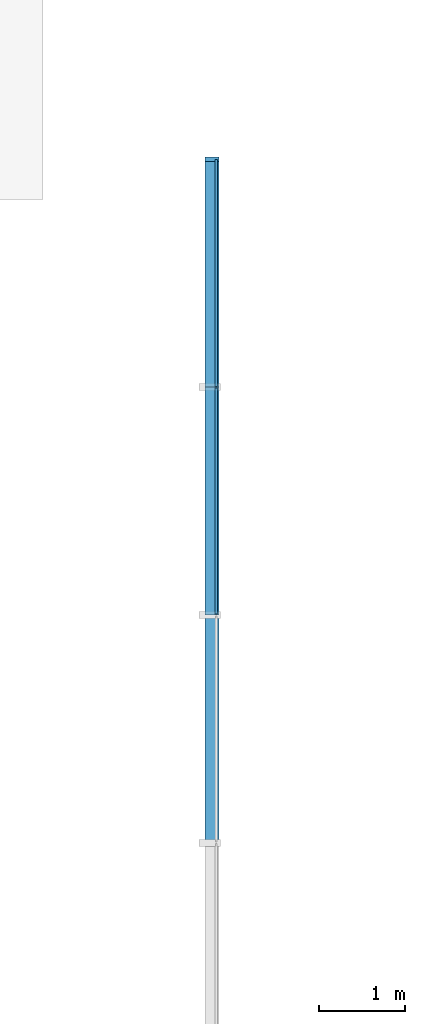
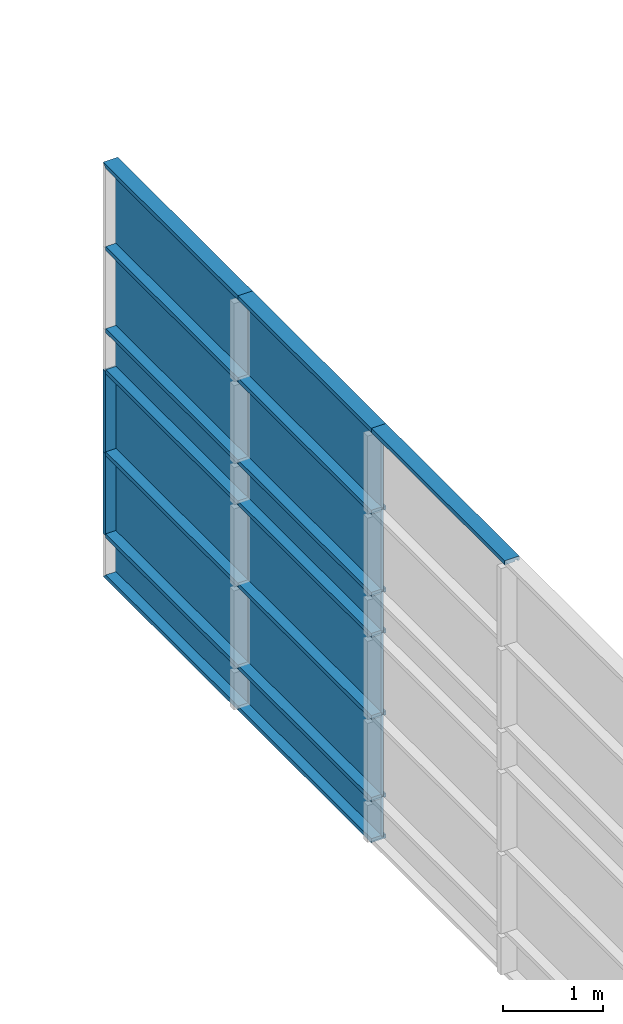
# One storey, part 3 of 19: 29 building element parts, 1 element without a shape of its own.
"""IFC4 building model written with IfcOpenShell, lengths in millimetres."""

from ifc_helpers import new_model, entity, si_unit, converted_unit, derived_unit, direction, frame, origin_with_axes, place, context, subcontext, project, spatial, triangles, material, element, aggregate, save


model = new_model("IFC4")

# Units and contexts
model_context = context("Model", 3, precision=1e-05, world=origin_with_axes(), true_north=direction((0.0, 1.0)))
body_context = subcontext(model_context, "Body", "Model", "MODEL_VIEW")
ifc_project = project(units=[si_unit("LENGTHUNIT", "METRE", prefix="MILLI"), si_unit("AREAUNIT", "SQUARE_METRE"), si_unit("VOLUMEUNIT", "CUBIC_METRE"), converted_unit("PLANEANGLEUNIT", "DEGREE", entity("IfcLengthMeasure", 0.017453), si_unit("PLANEANGLEUNIT", "RADIAN"), dimensions=[0, 0, 0, 0, 0, 0, 0]), si_unit("SOLIDANGLEUNIT", "STERADIAN"), si_unit("MASSUNIT", "GRAM"), si_unit("TIMEUNIT", "SECOND"), si_unit("THERMODYNAMICTEMPERATUREUNIT", "DEGREE_CELSIUS"), si_unit("LUMINOUSINTENSITYUNIT", "LUMEN"), si_unit("POWERUNIT", "WATT"), derived_unit("THERMALTRANSMITTANCEUNIT", [(si_unit("POWERUNIT", "WATT"), 1), (si_unit("THERMODYNAMICTEMPERATUREUNIT", "KELVIN"), -1), (si_unit("AREAUNIT", "SQUARE_METRE"), -1)])], contexts=[model_context])

# Site, building, storey
site_placement = place(None, origin_with_axes())
site = spatial("IfcSite", under=ifc_project, at=site_placement, Name="Default Site", CompositionType="ELEMENT")
building_placement = place(site_placement, origin_with_axes())
building = spatial("IfcBuilding", under=site, at=building_placement, Name="Default Building", CompositionType="ELEMENT")
storey_placement = place(building_placement, frame((0.0, 0.0, 3000.0), z_axis=(0.0, 0.0, 1.0), x_axis=(1.0, 0.0, 0.0)))
storey = spatial("IfcBuildingStorey", under=building, at=storey_placement, Name="EG - Story", CompositionType="ELEMENT", Elevation=3000.0)

# Curtain wall, building element parts
curtain_wall_placement = place(storey_placement, origin_with_axes())
curtain_wall = element("IfcCurtainWall", 1, at=curtain_wall_placement, inside=storey, Name="Fassade-013", PredefinedType="NOTDEFINED")
ifc_material_1 = material(Name="Normalglas")
building_element_part_1_placement = place(curtain_wall_placement, frame((51421.391327, -49908.012838, 0.0), z_axis=(0.0, 0.0, 1.0), x_axis=(1.0, 0.0, 0.0)))
building_element_part_1 = element("IfcBuildingElementPart", 2, at=building_element_part_1_placement, material=ifc_material_1, Name="Normalglas", PredefinedType="NOTDEFINED", context=body_context, shape_type="Tessellation", body=[
    triangles([(-14.999, 6646.25, 495.0), (-14.999, 4003.75, 495.0), (15.0, 4003.75, 495.0), (15.0, 6646.25, 495.0), (-14.999, 6646.25, 5.0), (-14.999, 4003.75, 5.0), (15.0, 4003.75, 5.0), (15.0, 6646.25, 5.0)], [[1, 2, 3], [1, 3, 4], [1, 5, 6], [1, 6, 2], [2, 6, 7], [2, 7, 3], [4, 3, 7], [4, 7, 8], [5, 1, 4], [5, 4, 8], [6, 5, 8], [6, 8, 7]], closed=False),
])
building_element_part_2_placement = place(curtain_wall_placement, frame((51421.391327, -49908.012838, 0.0), z_axis=(0.0, 0.0, 1.0), x_axis=(1.0, 0.0, 0.0)))
building_element_part_2 = element("IfcBuildingElementPart", 3, at=building_element_part_2_placement, material=ifc_material_1, Name="Normalglas", PredefinedType="NOTDEFINED", context=body_context, shape_type="Tessellation", body=[
    triangles([(-14.999, 9313.75, 495.0), (-14.999, 6666.25, 495.0), (15.0, 6666.25, 495.0), (15.0, 9313.75, 495.0), (-14.999, 9313.75, 5.0), (-14.999, 6666.25, 5.0), (15.0, 6666.25, 5.0), (15.0, 9313.75, 5.0)], [[1, 2, 3], [1, 3, 4], [1, 5, 6], [1, 6, 2], [2, 6, 7], [2, 7, 3], [4, 3, 7], [4, 7, 8], [5, 1, 4], [5, 4, 8], [6, 5, 8], [6, 8, 7]], closed=False),
])
building_element_part_3_placement = place(curtain_wall_placement, frame((51421.391327, -49908.012838, 0.0), z_axis=(0.0, 0.0, 1.0), x_axis=(1.0, 0.0, 0.0)))
building_element_part_3 = element("IfcBuildingElementPart", 4, at=building_element_part_3_placement, material=ifc_material_1, Name="Normalglas", PredefinedType="NOTDEFINED", context=body_context, shape_type="Tessellation", body=[
    triangles([(-14.999, 6646.25, 1495.0), (-14.999, 4003.75, 1495.0), (15.0, 4003.75, 1495.0), (15.0, 6646.25, 1495.0), (-14.999, 6646.25, 505.0), (-14.999, 4003.75, 505.0), (15.0, 4003.75, 505.0), (15.0, 6646.25, 505.0)], [[1, 2, 3], [1, 3, 4], [1, 5, 6], [1, 6, 2], [2, 6, 7], [2, 7, 3], [4, 3, 7], [4, 7, 8], [5, 1, 4], [5, 4, 8], [6, 5, 8], [6, 8, 7]], closed=False),
])
building_element_part_4_placement = place(curtain_wall_placement, frame((51421.391327, -49908.012838, 0.0), z_axis=(0.0, 0.0, 1.0), x_axis=(1.0, 0.0, 0.0)))
building_element_part_4 = element("IfcBuildingElementPart", 5, at=building_element_part_4_placement, material=ifc_material_1, Name="Normalglas", PredefinedType="NOTDEFINED", context=body_context, shape_type="Tessellation", body=[
    triangles([(-14.999, 9313.75, 1495.0), (-14.999, 6666.25, 1495.0), (15.0, 6666.25, 1495.0), (15.0, 9313.75, 1495.0), (-14.999, 9313.75, 505.0), (-14.999, 6666.25, 505.0), (15.0, 6666.25, 505.0), (15.0, 9313.75, 505.0)], [[1, 2, 3], [1, 3, 4], [1, 5, 6], [1, 6, 2], [2, 6, 7], [2, 7, 3], [4, 3, 7], [4, 7, 8], [5, 1, 4], [5, 4, 8], [6, 5, 8], [6, 8, 7]], closed=False),
])
building_element_part_5_placement = place(curtain_wall_placement, frame((51421.391327, -49908.012838, 0.0), z_axis=(0.0, 0.0, 1.0), x_axis=(1.0, 0.0, 0.0)))
building_element_part_5 = element("IfcBuildingElementPart", 6, at=building_element_part_5_placement, material=ifc_material_1, Name="Normalglas", PredefinedType="NOTDEFINED", context=body_context, shape_type="Tessellation", body=[
    triangles([(-14.999, 6646.25, 2495.0), (-14.999, 4003.75, 2495.0), (15.0, 4003.75, 2495.0), (15.0, 6646.25, 2495.0), (-14.999, 6646.25, 1505.0), (-14.999, 4003.75, 1505.0), (15.0, 4003.75, 1505.0), (15.0, 6646.25, 1505.0)], [[1, 2, 3], [1, 3, 4], [1, 5, 6], [1, 6, 2], [2, 6, 7], [2, 7, 3], [4, 3, 7], [4, 7, 8], [5, 1, 4], [5, 4, 8], [6, 5, 8], [6, 8, 7]], closed=False),
])
building_element_part_6_placement = place(curtain_wall_placement, frame((51421.391327, -49908.012838, 0.0), z_axis=(0.0, 0.0, 1.0), x_axis=(1.0, 0.0, 0.0)))
building_element_part_6 = element("IfcBuildingElementPart", 7, at=building_element_part_6_placement, material=ifc_material_1, Name="Normalglas", PredefinedType="NOTDEFINED", context=body_context, shape_type="Tessellation", body=[
    triangles([(-14.999, 9313.75, 2495.0), (-14.999, 6666.25, 2495.0), (15.0, 6666.25, 2495.0), (15.0, 9313.75, 2495.0), (-14.999, 9313.75, 1505.0), (-14.999, 6666.25, 1505.0), (15.0, 6666.25, 1505.0), (15.0, 9313.75, 1505.0)], [[1, 2, 3], [1, 3, 4], [1, 5, 6], [1, 6, 2], [2, 6, 7], [2, 7, 3], [4, 3, 7], [4, 7, 8], [5, 1, 4], [5, 4, 8], [6, 5, 8], [6, 8, 7]], closed=False),
])
building_element_part_7_placement = place(curtain_wall_placement, frame((51421.391327, -49908.012838, 0.0), z_axis=(0.0, 0.0, 1.0), x_axis=(1.0, 0.0, 0.0)))
building_element_part_7 = element("IfcBuildingElementPart", 8, at=building_element_part_7_placement, material=ifc_material_1, Name="Normalglas", PredefinedType="NOTDEFINED", context=body_context, shape_type="Tessellation", body=[
    triangles([(-14.999, 6646.25, 2995.0), (-14.999, 4003.75, 2995.0), (15.0, 4003.75, 2995.0), (15.0, 6646.25, 2995.0), (-14.999, 6646.25, 2505.0), (-14.999, 4003.75, 2505.0), (15.0, 4003.75, 2505.0), (15.0, 6646.25, 2505.0)], [[1, 2, 3], [1, 3, 4], [1, 5, 6], [1, 6, 2], [2, 6, 7], [2, 7, 3], [4, 3, 7], [4, 7, 8], [5, 1, 4], [5, 4, 8], [6, 5, 8], [6, 8, 7]], closed=False),
])
building_element_part_8_placement = place(curtain_wall_placement, frame((51421.391327, -49908.012838, 0.0), z_axis=(0.0, 0.0, 1.0), x_axis=(1.0, 0.0, 0.0)))
building_element_part_8 = element("IfcBuildingElementPart", 9, at=building_element_part_8_placement, material=ifc_material_1, Name="Normalglas", PredefinedType="NOTDEFINED", context=body_context, shape_type="Tessellation", body=[
    triangles([(-14.999, 9313.75, 2995.0), (-14.999, 6666.25, 2995.0), (15.0, 6666.25, 2995.0), (15.0, 9313.75, 2995.0), (-14.999, 9313.75, 2505.0), (-14.999, 6666.25, 2505.0), (15.0, 6666.25, 2505.0), (15.0, 9313.75, 2505.0)], [[1, 2, 3], [1, 3, 4], [1, 5, 6], [1, 6, 2], [2, 6, 7], [2, 7, 3], [4, 3, 7], [4, 7, 8], [5, 1, 4], [5, 4, 8], [6, 5, 8], [6, 8, 7]], closed=False),
])
building_element_part_9_placement = place(curtain_wall_placement, frame((51421.391327, -49908.012838, 0.0), z_axis=(0.0, 0.0, 1.0), x_axis=(1.0, 0.0, 0.0)))
building_element_part_9 = element("IfcBuildingElementPart", 10, at=building_element_part_9_placement, material=ifc_material_1, Name="Normalglas", PredefinedType="NOTDEFINED", context=body_context, shape_type="Tessellation", body=[
    triangles([(-14.999, 6646.25, 3995.0), (-14.999, 4003.75, 3995.0), (15.0, 4003.75, 3995.0), (15.0, 6646.25, 3995.0), (-14.999, 6646.25, 3005.0), (-14.999, 4003.75, 3005.0), (15.0, 4003.75, 3005.0), (15.0, 6646.25, 3005.0)], [[1, 2, 3], [1, 3, 4], [1, 5, 6], [1, 6, 2], [2, 6, 7], [2, 7, 3], [4, 3, 7], [4, 7, 8], [5, 1, 4], [5, 4, 8], [6, 5, 8], [6, 8, 7]], closed=False),
])
building_element_part_10_placement = place(curtain_wall_placement, frame((51421.391327, -49908.012838, 0.0), z_axis=(0.0, 0.0, 1.0), x_axis=(1.0, 0.0, 0.0)))
building_element_part_10 = element("IfcBuildingElementPart", 11, at=building_element_part_10_placement, material=ifc_material_1, Name="Normalglas", PredefinedType="NOTDEFINED", context=body_context, shape_type="Tessellation", body=[
    triangles([(-14.999, 9313.75, 3995.0), (-14.999, 6666.25, 3995.0), (15.0, 6666.25, 3995.0), (15.0, 9313.75, 3995.0), (-14.999, 9313.75, 3005.0), (-14.999, 6666.25, 3005.0), (15.0, 6666.25, 3005.0), (15.0, 9313.75, 3005.0)], [[1, 2, 3], [1, 3, 4], [1, 5, 6], [1, 6, 2], [2, 6, 7], [2, 7, 3], [4, 3, 7], [4, 7, 8], [5, 1, 4], [5, 4, 8], [6, 5, 8], [6, 8, 7]], closed=False),
])
building_element_part_11_placement = place(curtain_wall_placement, frame((51421.391327, -49908.012838, 0.0), z_axis=(0.0, 0.0, 1.0), x_axis=(1.0, 0.0, 0.0)))
building_element_part_11 = element("IfcBuildingElementPart", 12, at=building_element_part_11_placement, material=ifc_material_1, Name="Normalglas", PredefinedType="NOTDEFINED", context=body_context, shape_type="Tessellation", body=[
    triangles([(-14.999, 6646.25, 4995.0), (-14.999, 4003.75, 4995.0), (15.0, 4003.75, 4995.0), (15.0, 6646.25, 4995.0), (-14.999, 6646.25, 4005.0), (-14.999, 4003.75, 4005.0), (15.0, 4003.75, 4005.0), (15.0, 6646.25, 4005.0)], [[1, 2, 3], [1, 3, 4], [1, 5, 6], [1, 6, 2], [2, 6, 7], [2, 7, 3], [4, 3, 7], [4, 7, 8], [5, 1, 4], [5, 4, 8], [6, 5, 8], [6, 8, 7]], closed=False),
])
building_element_part_12_placement = place(curtain_wall_placement, frame((51421.391327, -49908.012838, 0.0), z_axis=(0.0, 0.0, 1.0), x_axis=(1.0, 0.0, 0.0)))
building_element_part_12 = element("IfcBuildingElementPart", 13, at=building_element_part_12_placement, material=ifc_material_1, Name="Normalglas", PredefinedType="NOTDEFINED", context=body_context, shape_type="Tessellation", body=[
    triangles([(-14.999, 9313.75, 4995.0), (-14.999, 6666.25, 4995.0), (15.0, 6666.25, 4995.0), (15.0, 9313.75, 4995.0), (-14.999, 9313.75, 4005.0), (-14.999, 6666.25, 4005.0), (15.0, 6666.25, 4005.0), (15.0, 9313.75, 4005.0)], [[1, 2, 3], [1, 3, 4], [1, 5, 6], [1, 6, 2], [2, 6, 7], [2, 7, 3], [4, 3, 7], [4, 7, 8], [5, 1, 4], [5, 4, 8], [6, 5, 8], [6, 8, 7]], closed=False),
])
ifc_material_2 = material(Name="Blech")
building_element_part_13_placement = place(curtain_wall_placement, frame((51421.391327, -49908.012838, 0.0), z_axis=(0.0, 0.0, 1.0), x_axis=(1.0, 0.0, 0.0)))
building_element_part_13 = element("IfcBuildingElementPart", 14, at=building_element_part_13_placement, material=ifc_material_2, Name="Blech", PredefinedType="NOTDEFINED", context=body_context, shape_type="Tessellation", body=[
    triangles([(15.0, 6656.25, 5.0), (-14.999, 6656.25, 5.0), (-132.999, 6656.25, -24.999), (35.0, 6656.25, -24.999), (35.0, 6656.25, 25.0), (15.0, 6656.25, 25.0), (-132.999, 6656.25, 25.0), (-14.999, 6656.25, 25.0), (-14.999, 3993.75, 5.0), (15.0, 3993.75, 5.0), (15.0, 3993.75, 25.0), (35.0, 3993.75, 25.0), (35.0, 3993.75, -24.999), (-132.999, 3993.75, -24.999), (-132.999, 3993.75, 25.0), (-14.999, 3993.75, 25.0)], [[1, 2, 3], [1, 3, 4], [1, 4, 5], [1, 5, 6], [7, 3, 2], [7, 2, 8], [1, 2, 9], [1, 9, 10], [11, 6, 1], [11, 1, 10], [6, 11, 12], [6, 12, 5], [13, 4, 5], [13, 5, 12], [14, 3, 4], [14, 4, 13], [15, 7, 3], [15, 3, 14], [16, 8, 7], [16, 7, 15], [2, 8, 16], [2, 16, 9], [16, 15, 9], [9, 15, 14], [9, 14, 10], [10, 14, 13], [10, 13, 12], [10, 12, 11]], closed=False),
])
building_element_part_14_placement = place(curtain_wall_placement, frame((51421.391327, -49908.012838, 0.0), z_axis=(0.0, 0.0, 1.0), x_axis=(1.0, 0.0, 0.0)))
building_element_part_14 = element("IfcBuildingElementPart", 15, at=building_element_part_14_placement, material=ifc_material_2, Name="Blech", PredefinedType="NOTDEFINED", context=body_context, shape_type="Tessellation", body=[
    triangles([(15.0, 9313.75, 5.0), (-14.999, 9313.75, 5.0), (-132.999, 9343.75, -24.999), (35.0, 9343.75, -24.999), (35.0, 9293.75, 25.0), (15.0, 9293.75, 25.0), (-132.999, 9293.75, 25.0), (-14.999, 9293.75, 25.0), (-14.999, 6656.25, 5.0), (15.0, 6656.25, 5.0), (15.0, 6656.25, 25.0), (35.0, 6656.25, 25.0), (35.0, 6656.25, -24.999), (-132.999, 6656.25, -24.999), (-132.999, 6656.25, 25.0), (-14.999, 6656.25, 25.0)], [[1, 2, 3], [1, 3, 4], [1, 4, 5], [1, 5, 6], [7, 3, 2], [7, 2, 8], [1, 2, 9], [1, 9, 10], [11, 6, 1], [11, 1, 10], [6, 11, 12], [6, 12, 5], [13, 4, 5], [13, 5, 12], [14, 3, 4], [14, 4, 13], [15, 7, 3], [15, 3, 14], [16, 8, 7], [16, 7, 15], [2, 8, 16], [2, 16, 9], [16, 15, 9], [9, 15, 14], [9, 14, 10], [10, 14, 13], [10, 13, 12], [10, 12, 11]], closed=False),
])
building_element_part_15_placement = place(curtain_wall_placement, frame((51421.391327, -49908.012838, 0.0), z_axis=(0.0, 0.0, 1.0), x_axis=(1.0, 0.0, 0.0)))
building_element_part_15 = element("IfcBuildingElementPart", 16, at=building_element_part_15_placement, material=ifc_material_2, Name="Blech", PredefinedType="NOTDEFINED", context=body_context, shape_type="Tessellation", body=[
    triangles([(15.0, 6656.25, 525.0), (35.0, 6656.25, 525.0), (15.0, 6656.25, 505.0), (15.0, 6656.25, 495.0), (-14.999, 6656.25, 505.0), (-132.999, 6656.25, 525.0), (-14.999, 6656.25, 525.0), (35.0, 6656.25, 475.0), (15.0, 6656.25, 475.0), (-14.999, 6656.25, 495.0), (-14.999, 6656.25, 475.0), (-132.999, 6656.25, 475.0), (-14.999, 3993.75, 495.0), (-14.999, 3993.75, 475.0), (-132.999, 3993.75, 475.0), (-132.999, 3993.75, 525.0), (-14.999, 3993.75, 525.0), (-14.999, 3993.75, 505.0), (15.0, 3993.75, 505.0), (15.0, 3993.75, 525.0), (35.0, 3993.75, 525.0), (35.0, 3993.75, 475.0), (15.0, 3993.75, 475.0), (15.0, 3993.75, 495.0)], [[1, 2, 3], [3, 2, 4], [3, 4, 5], [5, 4, 6], [5, 6, 7], [8, 9, 4], [8, 4, 2], [6, 4, 10], [6, 10, 11], [6, 11, 12], [11, 10, 13], [11, 13, 14], [11, 14, 15], [11, 15, 12], [6, 12, 15], [6, 15, 16], [7, 6, 16], [7, 16, 17], [7, 17, 18], [7, 18, 5], [5, 18, 19], [5, 19, 3], [1, 3, 19], [1, 19, 20], [20, 21, 2], [20, 2, 1], [8, 2, 21], [8, 21, 22], [23, 9, 8], [23, 8, 22], [4, 9, 23], [4, 23, 24], [10, 4, 24], [10, 24, 13], [17, 16, 18], [18, 16, 13], [18, 13, 19], [19, 13, 24], [19, 24, 21], [21, 24, 23], [21, 23, 22], [15, 14, 13], [15, 13, 16], [19, 21, 20]], closed=False),
])
building_element_part_16_placement = place(curtain_wall_placement, frame((51421.391327, -49908.012838, 0.0), z_axis=(0.0, 0.0, 1.0), x_axis=(1.0, 0.0, 0.0)))
building_element_part_16 = element("IfcBuildingElementPart", 17, at=building_element_part_16_placement, material=ifc_material_2, Name="Blech", PredefinedType="NOTDEFINED", context=body_context, shape_type="Tessellation", body=[
    triangles([(15.0, 9293.75, 525.0), (35.0, 9293.75, 525.0), (15.0, 9293.75, 505.0), (15.0, 9293.75, 495.0), (-14.999, 9293.75, 505.0), (-132.999, 9293.75, 525.0), (-14.999, 9293.75, 525.0), (35.0, 9293.75, 475.0), (15.0, 9293.75, 475.0), (-14.999, 9293.75, 495.0), (-14.999, 9293.75, 475.0), (-132.999, 9293.75, 475.0), (-14.999, 6656.25, 495.0), (-14.999, 6656.25, 475.0), (-132.999, 6656.25, 475.0), (-132.999, 6656.25, 525.0), (-14.999, 6656.25, 525.0), (-14.999, 6656.25, 505.0), (15.0, 6656.25, 505.0), (15.0, 6656.25, 525.0), (35.0, 6656.25, 525.0), (35.0, 6656.25, 475.0), (15.0, 6656.25, 475.0), (15.0, 6656.25, 495.0)], [[1, 2, 3], [3, 2, 4], [3, 4, 5], [5, 4, 6], [5, 6, 7], [8, 9, 4], [8, 4, 2], [6, 4, 10], [6, 10, 11], [6, 11, 12], [11, 10, 13], [11, 13, 14], [11, 14, 15], [11, 15, 12], [6, 12, 15], [6, 15, 16], [7, 6, 16], [7, 16, 17], [7, 17, 18], [7, 18, 5], [5, 18, 19], [5, 19, 3], [1, 3, 19], [1, 19, 20], [20, 21, 2], [20, 2, 1], [8, 2, 21], [8, 21, 22], [23, 9, 8], [23, 8, 22], [4, 9, 23], [4, 23, 24], [10, 4, 24], [10, 24, 13], [17, 16, 18], [18, 16, 13], [18, 13, 19], [19, 13, 24], [19, 24, 21], [21, 24, 23], [21, 23, 22], [15, 14, 13], [15, 13, 16], [19, 21, 20]], closed=False),
])
building_element_part_17_placement = place(curtain_wall_placement, frame((51421.391327, -49908.012838, 0.0), z_axis=(0.0, 0.0, 1.0), x_axis=(1.0, 0.0, 0.0)))
building_element_part_17 = element("IfcBuildingElementPart", 18, at=building_element_part_17_placement, material=ifc_material_2, Name="Blech", PredefinedType="NOTDEFINED", context=body_context, shape_type="Tessellation", body=[
    triangles([(15.0, 9293.75, 1500.0), (15.0, 9313.75, 1500.0), (35.0, 9343.75, 1500.0), (-14.999, 9313.75, 1500.0), (-132.999, 9293.75, 1500.0), (-14.999, 9293.75, 1500.0), (-132.999, 9343.75, 1500.0), (35.0, 9293.75, 1500.0), (-14.999, 9313.75, 500.0), (15.0, 9313.75, 500.0), (15.0, 9293.75, 500.0), (35.0, 9293.75, 500.0), (35.0, 9343.75, 500.0), (-132.999, 9343.75, 500.0), (-132.999, 9293.75, 500.0), (-14.999, 9293.75, 500.0)], [[1, 2, 3], [3, 2, 4], [3, 4, 5], [5, 4, 6], [3, 5, 7], [1, 3, 8], [2, 4, 9], [2, 9, 10], [11, 1, 2], [11, 2, 10], [1, 11, 12], [1, 12, 8], [13, 3, 8], [13, 8, 12], [14, 7, 3], [14, 3, 13], [15, 5, 7], [15, 7, 14], [16, 6, 5], [16, 5, 15], [4, 6, 16], [4, 16, 9], [13, 12, 11], [13, 11, 10], [13, 10, 9], [13, 9, 15], [13, 15, 14], [16, 15, 9]], closed=False),
])
building_element_part_18_placement = place(curtain_wall_placement, frame((51421.391327, -49908.012838, 0.0), z_axis=(0.0, 0.0, 1.0), x_axis=(1.0, 0.0, 0.0)))
building_element_part_18 = element("IfcBuildingElementPart", 19, at=building_element_part_18_placement, material=ifc_material_2, Name="Blech", PredefinedType="NOTDEFINED", context=body_context, shape_type="Tessellation", body=[
    triangles([(15.0, 6656.25, 1525.0), (35.0, 6656.25, 1525.0), (15.0, 6656.25, 1505.0), (15.0, 6656.25, 1495.0), (-14.999, 6656.25, 1505.0), (-132.999, 6656.25, 1525.0), (-14.999, 6656.25, 1525.0), (35.0, 6656.25, 1475.0), (15.0, 6656.25, 1475.0), (-14.999, 6656.25, 1495.0), (-14.999, 6656.25, 1475.0), (-132.999, 6656.25, 1475.0), (-14.999, 3993.75, 1495.0), (-14.999, 3993.75, 1475.0), (-132.999, 3993.75, 1475.0), (-132.999, 3993.75, 1525.0), (-14.999, 3993.75, 1525.0), (-14.999, 3993.75, 1505.0), (15.0, 3993.75, 1505.0), (15.0, 3993.75, 1525.0), (35.0, 3993.75, 1525.0), (35.0, 3993.75, 1475.0), (15.0, 3993.75, 1475.0), (15.0, 3993.75, 1495.0)], [[1, 2, 3], [3, 2, 4], [3, 4, 5], [5, 4, 6], [5, 6, 7], [8, 9, 4], [8, 4, 2], [6, 4, 10], [6, 10, 11], [6, 11, 12], [11, 10, 13], [11, 13, 14], [11, 14, 15], [11, 15, 12], [6, 12, 15], [6, 15, 16], [7, 6, 16], [7, 16, 17], [7, 17, 18], [7, 18, 5], [5, 18, 19], [5, 19, 3], [1, 3, 19], [1, 19, 20], [20, 21, 2], [20, 2, 1], [8, 2, 21], [8, 21, 22], [23, 9, 8], [23, 8, 22], [4, 9, 23], [4, 23, 24], [10, 4, 24], [10, 24, 13], [17, 16, 18], [18, 16, 13], [18, 13, 19], [19, 13, 24], [19, 24, 21], [21, 24, 23], [21, 23, 22], [15, 14, 13], [15, 13, 16], [19, 21, 20]], closed=False),
])
building_element_part_19_placement = place(curtain_wall_placement, frame((51421.391327, -49908.012838, 0.0), z_axis=(0.0, 0.0, 1.0), x_axis=(1.0, 0.0, 0.0)))
building_element_part_19 = element("IfcBuildingElementPart", 20, at=building_element_part_19_placement, material=ifc_material_2, Name="Blech", PredefinedType="NOTDEFINED", context=body_context, shape_type="Tessellation", body=[
    triangles([(15.0, 9293.75, 1525.0), (35.0, 9293.75, 1525.0), (15.0, 9293.75, 1505.0), (15.0, 9293.75, 1495.0), (-14.999, 9293.75, 1505.0), (-132.999, 9293.75, 1525.0), (-14.999, 9293.75, 1525.0), (35.0, 9293.75, 1475.0), (15.0, 9293.75, 1475.0), (-14.999, 9293.75, 1495.0), (-14.999, 9293.75, 1475.0), (-132.999, 9293.75, 1475.0), (-14.999, 6656.25, 1495.0), (-14.999, 6656.25, 1475.0), (-132.999, 6656.25, 1475.0), (-132.999, 6656.25, 1525.0), (-14.999, 6656.25, 1525.0), (-14.999, 6656.25, 1505.0), (15.0, 6656.25, 1505.0), (15.0, 6656.25, 1525.0), (35.0, 6656.25, 1525.0), (35.0, 6656.25, 1475.0), (15.0, 6656.25, 1475.0), (15.0, 6656.25, 1495.0)], [[1, 2, 3], [3, 2, 4], [3, 4, 5], [5, 4, 6], [5, 6, 7], [8, 9, 4], [8, 4, 2], [6, 4, 10], [6, 10, 11], [6, 11, 12], [11, 10, 13], [11, 13, 14], [11, 14, 15], [11, 15, 12], [6, 12, 15], [6, 15, 16], [7, 6, 16], [7, 16, 17], [7, 17, 18], [7, 18, 5], [5, 18, 19], [5, 19, 3], [1, 3, 19], [1, 19, 20], [20, 21, 2], [20, 2, 1], [8, 2, 21], [8, 21, 22], [23, 9, 8], [23, 8, 22], [4, 9, 23], [4, 23, 24], [10, 4, 24], [10, 24, 13], [17, 16, 18], [18, 16, 13], [18, 13, 19], [19, 13, 24], [19, 24, 21], [21, 24, 23], [21, 23, 22], [15, 14, 13], [15, 13, 16], [19, 21, 20]], closed=False),
])
building_element_part_20_placement = place(curtain_wall_placement, frame((51421.391327, -49908.012838, 0.0), z_axis=(0.0, 0.0, 1.0), x_axis=(1.0, 0.0, 0.0)))
building_element_part_20 = element("IfcBuildingElementPart", 21, at=building_element_part_20_placement, material=ifc_material_2, Name="Blech", PredefinedType="NOTDEFINED", context=body_context, shape_type="Tessellation", body=[
    triangles([(15.0, 9293.75, 2500.0), (15.0, 9313.75, 2500.0), (35.0, 9343.75, 2500.0), (-14.999, 9313.75, 2500.0), (-132.999, 9293.75, 2500.0), (-14.999, 9293.75, 2500.0), (-132.999, 9343.75, 2500.0), (35.0, 9293.75, 2500.0), (-14.999, 9313.75, 1500.0), (15.0, 9313.75, 1500.0), (15.0, 9293.75, 1500.0), (35.0, 9293.75, 1500.0), (35.0, 9343.75, 1500.0), (-132.999, 9343.75, 1500.0), (-132.999, 9293.75, 1500.0), (-14.999, 9293.75, 1500.0)], [[1, 2, 3], [3, 2, 4], [3, 4, 5], [5, 4, 6], [3, 5, 7], [1, 3, 8], [2, 4, 9], [2, 9, 10], [11, 1, 2], [11, 2, 10], [1, 11, 12], [1, 12, 8], [13, 3, 8], [13, 8, 12], [14, 7, 3], [14, 3, 13], [15, 5, 7], [15, 7, 14], [16, 6, 5], [16, 5, 15], [4, 6, 16], [4, 16, 9], [13, 12, 11], [13, 11, 10], [13, 10, 9], [13, 9, 15], [13, 15, 14], [16, 15, 9]], closed=False),
])
building_element_part_21_placement = place(curtain_wall_placement, frame((51421.391327, -49908.012838, 0.0), z_axis=(0.0, 0.0, 1.0), x_axis=(1.0, 0.0, 0.0)))
building_element_part_21 = element("IfcBuildingElementPart", 22, at=building_element_part_21_placement, material=ifc_material_2, Name="Blech", PredefinedType="NOTDEFINED", context=body_context, shape_type="Tessellation", body=[
    triangles([(15.0, 6656.25, 2525.0), (35.0, 6656.25, 2525.0), (15.0, 6656.25, 2505.0), (15.0, 6656.25, 2495.0), (-14.999, 6656.25, 2505.0), (-132.999, 6656.25, 2525.0), (-14.999, 6656.25, 2525.0), (35.0, 6656.25, 2475.0), (15.0, 6656.25, 2475.0), (-14.999, 6656.25, 2495.0), (-14.999, 6656.25, 2475.0), (-132.999, 6656.25, 2475.0), (-14.999, 3993.75, 2495.0), (-14.999, 3993.75, 2475.0), (-132.999, 3993.75, 2475.0), (-132.999, 3993.75, 2525.0), (-14.999, 3993.75, 2525.0), (-14.999, 3993.75, 2505.0), (15.0, 3993.75, 2505.0), (15.0, 3993.75, 2525.0), (35.0, 3993.75, 2525.0), (35.0, 3993.75, 2475.0), (15.0, 3993.75, 2475.0), (15.0, 3993.75, 2495.0)], [[1, 2, 3], [3, 2, 4], [3, 4, 5], [5, 4, 6], [5, 6, 7], [8, 9, 4], [8, 4, 2], [6, 4, 10], [6, 10, 11], [6, 11, 12], [11, 10, 13], [11, 13, 14], [11, 14, 15], [11, 15, 12], [6, 12, 15], [6, 15, 16], [7, 6, 16], [7, 16, 17], [7, 17, 18], [7, 18, 5], [5, 18, 19], [5, 19, 3], [1, 3, 19], [1, 19, 20], [20, 21, 2], [20, 2, 1], [8, 2, 21], [8, 21, 22], [23, 9, 8], [23, 8, 22], [4, 9, 23], [4, 23, 24], [10, 4, 24], [10, 24, 13], [17, 16, 18], [18, 16, 13], [18, 13, 19], [19, 13, 24], [19, 24, 21], [21, 24, 23], [21, 23, 22], [15, 14, 13], [15, 13, 16], [19, 21, 20]], closed=False),
])
building_element_part_22_placement = place(curtain_wall_placement, frame((51421.391327, -49908.012838, 0.0), z_axis=(0.0, 0.0, 1.0), x_axis=(1.0, 0.0, 0.0)))
building_element_part_22 = element("IfcBuildingElementPart", 23, at=building_element_part_22_placement, material=ifc_material_2, Name="Blech", PredefinedType="NOTDEFINED", context=body_context, shape_type="Tessellation", body=[
    triangles([(15.0, 9293.75, 2525.0), (35.0, 9293.75, 2525.0), (15.0, 9293.75, 2505.0), (15.0, 9293.75, 2495.0), (-14.999, 9293.75, 2505.0), (-132.999, 9293.75, 2525.0), (-14.999, 9293.75, 2525.0), (35.0, 9293.75, 2475.0), (15.0, 9293.75, 2475.0), (-14.999, 9293.75, 2495.0), (-14.999, 9293.75, 2475.0), (-132.999, 9293.75, 2475.0), (-14.999, 6656.25, 2495.0), (-14.999, 6656.25, 2475.0), (-132.999, 6656.25, 2475.0), (-132.999, 6656.25, 2525.0), (-14.999, 6656.25, 2525.0), (-14.999, 6656.25, 2505.0), (15.0, 6656.25, 2505.0), (15.0, 6656.25, 2525.0), (35.0, 6656.25, 2525.0), (35.0, 6656.25, 2475.0), (15.0, 6656.25, 2475.0), (15.0, 6656.25, 2495.0)], [[1, 2, 3], [3, 2, 4], [3, 4, 5], [5, 4, 6], [5, 6, 7], [8, 9, 4], [8, 4, 2], [6, 4, 10], [6, 10, 11], [6, 11, 12], [11, 10, 13], [11, 13, 14], [11, 14, 15], [11, 15, 12], [6, 12, 15], [6, 15, 16], [7, 6, 16], [7, 16, 17], [7, 17, 18], [7, 18, 5], [5, 18, 19], [5, 19, 3], [1, 3, 19], [1, 19, 20], [20, 21, 2], [20, 2, 1], [8, 2, 21], [8, 21, 22], [23, 9, 8], [23, 8, 22], [4, 9, 23], [4, 23, 24], [10, 4, 24], [10, 24, 13], [17, 16, 18], [18, 16, 13], [18, 13, 19], [19, 13, 24], [19, 24, 21], [21, 24, 23], [21, 23, 22], [15, 14, 13], [15, 13, 16], [19, 21, 20]], closed=False),
])
building_element_part_23_placement = place(curtain_wall_placement, frame((51421.391327, -49908.012838, 0.0), z_axis=(0.0, 0.0, 1.0), x_axis=(1.0, 0.0, 0.0)))
building_element_part_23 = element("IfcBuildingElementPart", 24, at=building_element_part_23_placement, material=ifc_material_2, Name="Blech", PredefinedType="NOTDEFINED", context=body_context, shape_type="Tessellation", body=[
    triangles([(15.0, 6656.25, 3025.0), (35.0, 6656.25, 3025.0), (15.0, 6656.25, 3005.0), (15.0, 6656.25, 2995.0), (-14.999, 6656.25, 3005.0), (-132.999, 6656.25, 3025.0), (-14.999, 6656.25, 3025.0), (35.0, 6656.25, 2975.0), (15.0, 6656.25, 2975.0), (-14.999, 6656.25, 2995.0), (-14.999, 6656.25, 2975.0), (-132.999, 6656.25, 2975.0), (-14.999, 3993.75, 2995.0), (-14.999, 3993.75, 2975.0), (-132.999, 3993.75, 2975.0), (-132.999, 3993.75, 3025.0), (-14.999, 3993.75, 3025.0), (-14.999, 3993.75, 3005.0), (15.0, 3993.75, 3005.0), (15.0, 3993.75, 3025.0), (35.0, 3993.75, 3025.0), (35.0, 3993.75, 2975.0), (15.0, 3993.75, 2975.0), (15.0, 3993.75, 2995.0)], [[1, 2, 3], [3, 2, 4], [3, 4, 5], [5, 4, 6], [5, 6, 7], [8, 9, 4], [8, 4, 2], [6, 4, 10], [6, 10, 11], [6, 11, 12], [11, 10, 13], [11, 13, 14], [11, 14, 15], [11, 15, 12], [6, 12, 15], [6, 15, 16], [7, 6, 16], [7, 16, 17], [7, 17, 18], [7, 18, 5], [5, 18, 19], [5, 19, 3], [1, 3, 19], [1, 19, 20], [20, 21, 2], [20, 2, 1], [8, 2, 21], [8, 21, 22], [23, 9, 8], [23, 8, 22], [4, 9, 23], [4, 23, 24], [10, 4, 24], [10, 24, 13], [17, 16, 18], [18, 16, 13], [18, 13, 19], [19, 13, 24], [19, 24, 21], [21, 24, 23], [21, 23, 22], [15, 14, 13], [15, 13, 16], [19, 21, 20]], closed=False),
])
building_element_part_24_placement = place(curtain_wall_placement, frame((51421.391327, -49908.012838, 0.0), z_axis=(0.0, 0.0, 1.0), x_axis=(1.0, 0.0, 0.0)))
building_element_part_24 = element("IfcBuildingElementPart", 25, at=building_element_part_24_placement, material=ifc_material_2, Name="Blech", PredefinedType="NOTDEFINED", context=body_context, shape_type="Tessellation", body=[
    triangles([(15.0, 9293.75, 3025.0), (35.0, 9293.75, 3025.0), (15.0, 9293.75, 3005.0), (15.0, 9293.75, 2995.0), (-14.999, 9293.75, 3005.0), (-132.999, 9293.75, 3025.0), (-14.999, 9293.75, 3025.0), (35.0, 9293.75, 2975.0), (15.0, 9293.75, 2975.0), (-14.999, 9293.75, 2995.0), (-14.999, 9293.75, 2975.0), (-132.999, 9293.75, 2975.0), (-14.999, 6656.25, 2995.0), (-14.999, 6656.25, 2975.0), (-132.999, 6656.25, 2975.0), (-132.999, 6656.25, 3025.0), (-14.999, 6656.25, 3025.0), (-14.999, 6656.25, 3005.0), (15.0, 6656.25, 3005.0), (15.0, 6656.25, 3025.0), (35.0, 6656.25, 3025.0), (35.0, 6656.25, 2975.0), (15.0, 6656.25, 2975.0), (15.0, 6656.25, 2995.0)], [[1, 2, 3], [3, 2, 4], [3, 4, 5], [5, 4, 6], [5, 6, 7], [8, 9, 4], [8, 4, 2], [6, 4, 10], [6, 10, 11], [6, 11, 12], [11, 10, 13], [11, 13, 14], [11, 14, 15], [11, 15, 12], [6, 12, 15], [6, 15, 16], [7, 6, 16], [7, 16, 17], [7, 17, 18], [7, 18, 5], [5, 18, 19], [5, 19, 3], [1, 3, 19], [1, 19, 20], [20, 21, 2], [20, 2, 1], [8, 2, 21], [8, 21, 22], [23, 9, 8], [23, 8, 22], [4, 9, 23], [4, 23, 24], [10, 4, 24], [10, 24, 13], [17, 16, 18], [18, 16, 13], [18, 13, 19], [19, 13, 24], [19, 24, 21], [21, 24, 23], [21, 23, 22], [15, 14, 13], [15, 13, 16], [19, 21, 20]], closed=False),
])
building_element_part_25_placement = place(curtain_wall_placement, frame((51421.391327, -49908.012838, 0.0), z_axis=(0.0, 0.0, 1.0), x_axis=(1.0, 0.0, 0.0)))
building_element_part_25 = element("IfcBuildingElementPart", 26, at=building_element_part_25_placement, material=ifc_material_2, Name="Blech", PredefinedType="NOTDEFINED", context=body_context, shape_type="Tessellation", body=[
    triangles([(15.0, 3993.75, 4995.0), (-14.999, 3993.75, 4995.0), (-132.999, 3993.75, 5025.0), (35.0, 3993.75, 5025.0), (35.0, 3993.75, 4975.0), (15.0, 3993.75, 4975.0), (-14.999, 3993.75, 4975.0), (-132.999, 3993.75, 4975.0), (-14.999, 1331.25, 4995.0), (-14.999, 1331.25, 4975.0), (-132.999, 1331.25, 4975.0), (-132.999, 1331.25, 5025.0), (35.0, 1331.25, 5025.0), (35.0, 1331.25, 4975.0), (15.0, 1331.25, 4975.0), (15.0, 1331.25, 4995.0)], [[1, 2, 3], [1, 3, 4], [1, 4, 5], [1, 5, 6], [7, 8, 3], [7, 3, 2], [2, 9, 10], [2, 10, 7], [10, 11, 8], [10, 8, 7], [11, 12, 3], [11, 3, 8], [12, 13, 4], [12, 4, 3], [13, 14, 5], [13, 5, 4], [6, 5, 14], [6, 14, 15], [15, 16, 1], [15, 1, 6], [1, 16, 9], [1, 9, 2], [16, 9, 12], [16, 12, 13], [16, 13, 14], [16, 14, 15], [10, 11, 12], [10, 12, 9]], closed=False),
])
building_element_part_26_placement = place(curtain_wall_placement, frame((51421.391327, -49908.012838, 0.0), z_axis=(0.0, 0.0, 1.0), x_axis=(1.0, 0.0, 0.0)))
building_element_part_26 = element("IfcBuildingElementPart", 27, at=building_element_part_26_placement, material=ifc_material_2, Name="Blech", PredefinedType="NOTDEFINED", context=body_context, shape_type="Tessellation", body=[
    triangles([(15.0, 6656.25, 4025.0), (35.0, 6656.25, 4025.0), (15.0, 6656.25, 4005.0), (15.0, 6656.25, 3995.0), (-14.999, 6656.25, 4005.0), (-132.999, 6656.25, 4025.0), (-14.999, 6656.25, 4025.0), (35.0, 6656.25, 3975.0), (15.0, 6656.25, 3975.0), (-14.999, 6656.25, 3995.0), (-14.999, 6656.25, 3975.0), (-132.999, 6656.25, 3975.0), (-14.999, 3993.75, 3995.0), (-14.999, 3993.75, 3975.0), (-132.999, 3993.75, 3975.0), (-132.999, 3993.75, 4025.0), (-14.999, 3993.75, 4025.0), (-14.999, 3993.75, 4005.0), (15.0, 3993.75, 4005.0), (15.0, 3993.75, 4025.0), (35.0, 3993.75, 4025.0), (35.0, 3993.75, 3975.0), (15.0, 3993.75, 3975.0), (15.0, 3993.75, 3995.0)], [[1, 2, 3], [3, 2, 4], [3, 4, 5], [5, 4, 6], [5, 6, 7], [8, 9, 4], [8, 4, 2], [6, 4, 10], [6, 10, 11], [6, 11, 12], [11, 10, 13], [11, 13, 14], [11, 14, 15], [11, 15, 12], [6, 12, 15], [6, 15, 16], [7, 6, 16], [7, 16, 17], [7, 17, 18], [7, 18, 5], [5, 18, 19], [5, 19, 3], [1, 3, 19], [1, 19, 20], [20, 21, 2], [20, 2, 1], [8, 2, 21], [8, 21, 22], [23, 9, 8], [23, 8, 22], [4, 9, 23], [4, 23, 24], [10, 4, 24], [10, 24, 13], [17, 16, 18], [18, 16, 13], [18, 13, 19], [19, 13, 24], [19, 24, 21], [21, 24, 23], [21, 23, 22], [15, 14, 13], [15, 13, 16], [19, 21, 20]], closed=False),
])
building_element_part_27_placement = place(curtain_wall_placement, frame((51421.391327, -49908.012838, 0.0), z_axis=(0.0, 0.0, 1.0), x_axis=(1.0, 0.0, 0.0)))
building_element_part_27 = element("IfcBuildingElementPart", 28, at=building_element_part_27_placement, material=ifc_material_2, Name="Blech", PredefinedType="NOTDEFINED", context=body_context, shape_type="Tessellation", body=[
    triangles([(15.0, 6656.25, 4995.0), (-14.999, 6656.25, 4995.0), (-132.999, 6656.25, 5025.0), (35.0, 6656.25, 5025.0), (35.0, 6656.25, 4975.0), (15.0, 6656.25, 4975.0), (-14.999, 6656.25, 4975.0), (-132.999, 6656.25, 4975.0), (-14.999, 3993.75, 4995.0), (-14.999, 3993.75, 4975.0), (-132.999, 3993.75, 4975.0), (-132.999, 3993.75, 5025.0), (35.0, 3993.75, 5025.0), (35.0, 3993.75, 4975.0), (15.0, 3993.75, 4975.0), (15.0, 3993.75, 4995.0)], [[1, 2, 3], [1, 3, 4], [1, 4, 5], [1, 5, 6], [7, 8, 3], [7, 3, 2], [2, 9, 10], [2, 10, 7], [10, 11, 8], [10, 8, 7], [11, 12, 3], [11, 3, 8], [12, 13, 4], [12, 4, 3], [13, 14, 5], [13, 5, 4], [6, 5, 14], [6, 14, 15], [15, 16, 1], [15, 1, 6], [1, 16, 9], [1, 9, 2], [16, 9, 12], [16, 12, 13], [16, 13, 14], [16, 14, 15], [10, 11, 12], [10, 12, 9]], closed=False),
])
building_element_part_28_placement = place(curtain_wall_placement, frame((51421.391327, -49908.012838, 0.0), z_axis=(0.0, 0.0, 1.0), x_axis=(1.0, 0.0, 0.0)))
building_element_part_28 = element("IfcBuildingElementPart", 29, at=building_element_part_28_placement, material=ifc_material_2, Name="Blech", PredefinedType="NOTDEFINED", context=body_context, shape_type="Tessellation", body=[
    triangles([(15.0, 9293.75, 4025.0), (35.0, 9293.75, 4025.0), (15.0, 9293.75, 4005.0), (15.0, 9293.75, 3995.0), (-14.999, 9293.75, 4005.0), (-132.999, 9293.75, 4025.0), (-14.999, 9293.75, 4025.0), (35.0, 9293.75, 3975.0), (15.0, 9293.75, 3975.0), (-14.999, 9293.75, 3995.0), (-14.999, 9293.75, 3975.0), (-132.999, 9293.75, 3975.0), (-14.999, 6656.25, 3995.0), (-14.999, 6656.25, 3975.0), (-132.999, 6656.25, 3975.0), (-132.999, 6656.25, 4025.0), (-14.999, 6656.25, 4025.0), (-14.999, 6656.25, 4005.0), (15.0, 6656.25, 4005.0), (15.0, 6656.25, 4025.0), (35.0, 6656.25, 4025.0), (35.0, 6656.25, 3975.0), (15.0, 6656.25, 3975.0), (15.0, 6656.25, 3995.0)], [[1, 2, 3], [3, 2, 4], [3, 4, 5], [5, 4, 6], [5, 6, 7], [8, 9, 4], [8, 4, 2], [6, 4, 10], [6, 10, 11], [6, 11, 12], [11, 10, 13], [11, 13, 14], [11, 14, 15], [11, 15, 12], [6, 12, 15], [6, 15, 16], [7, 6, 16], [7, 16, 17], [7, 17, 18], [7, 18, 5], [5, 18, 19], [5, 19, 3], [1, 3, 19], [1, 19, 20], [20, 21, 2], [20, 2, 1], [8, 2, 21], [8, 21, 22], [23, 9, 8], [23, 8, 22], [4, 9, 23], [4, 23, 24], [10, 4, 24], [10, 24, 13], [17, 16, 18], [18, 16, 13], [18, 13, 19], [19, 13, 24], [19, 24, 21], [21, 24, 23], [21, 23, 22], [15, 14, 13], [15, 13, 16], [19, 21, 20]], closed=False),
])
building_element_part_29_placement = place(curtain_wall_placement, frame((51421.391327, -49908.012838, 0.0), z_axis=(0.0, 0.0, 1.0), x_axis=(1.0, 0.0, 0.0)))
building_element_part_29 = element("IfcBuildingElementPart", 30, at=building_element_part_29_placement, material=ifc_material_2, Name="Blech", PredefinedType="NOTDEFINED", context=body_context, shape_type="Tessellation", body=[
    triangles([(15.0, 9313.75, 4995.0), (-14.999, 9313.75, 4995.0), (-132.999, 9343.75, 5025.0), (35.0, 9343.75, 5025.0), (35.0, 9293.75, 4975.0), (15.0, 9293.75, 4975.0), (-14.999, 9293.75, 4975.0), (-132.999, 9293.75, 4975.0), (-14.999, 6656.25, 4995.0), (-14.999, 6656.25, 4975.0), (-132.999, 6656.25, 4975.0), (-132.999, 6656.25, 5025.0), (35.0, 6656.25, 5025.0), (35.0, 6656.25, 4975.0), (15.0, 6656.25, 4975.0), (15.0, 6656.25, 4995.0)], [[1, 2, 3], [1, 3, 4], [1, 4, 5], [1, 5, 6], [7, 8, 3], [7, 3, 2], [2, 9, 10], [2, 10, 7], [10, 11, 8], [10, 8, 7], [11, 12, 3], [11, 3, 8], [12, 13, 4], [12, 4, 3], [13, 14, 5], [13, 5, 4], [6, 5, 14], [6, 14, 15], [15, 16, 1], [15, 1, 6], [1, 16, 9], [1, 9, 2], [16, 9, 12], [16, 12, 13], [16, 13, 14], [16, 14, 15], [10, 11, 12], [10, 12, 9]], closed=False),
])
aggregate(curtain_wall, [building_element_part_1, building_element_part_2, building_element_part_3, building_element_part_4, building_element_part_5, building_element_part_6, building_element_part_7, building_element_part_8, building_element_part_9, building_element_part_10, building_element_part_11, building_element_part_12, building_element_part_13, building_element_part_14, building_element_part_15, building_element_part_16, building_element_part_17, building_element_part_18, building_element_part_19, building_element_part_20, building_element_part_21, building_element_part_22, building_element_part_23, building_element_part_24, building_element_part_25, building_element_part_26, building_element_part_27, building_element_part_28, building_element_part_29])

save(model, "model.ifc")
